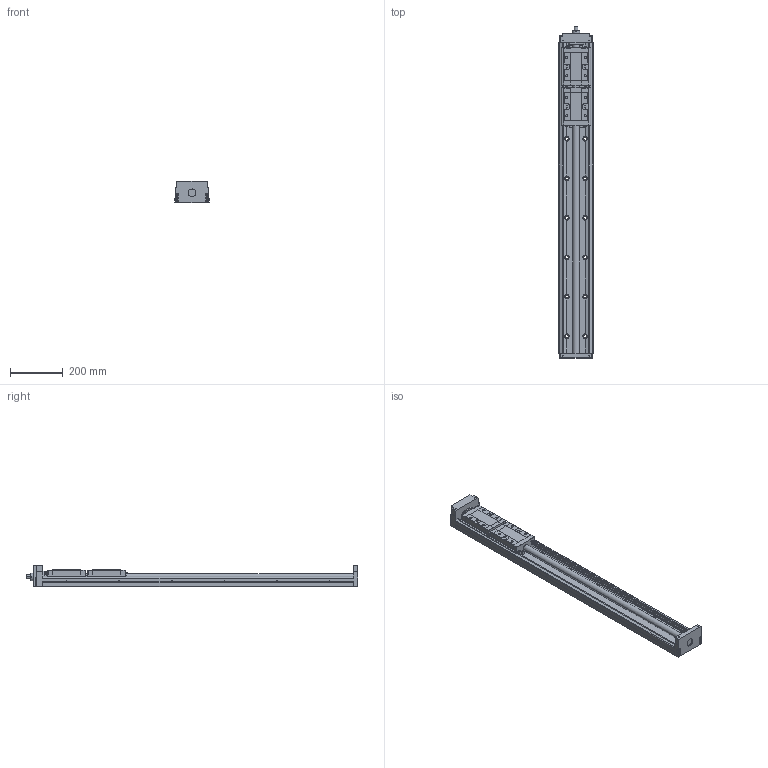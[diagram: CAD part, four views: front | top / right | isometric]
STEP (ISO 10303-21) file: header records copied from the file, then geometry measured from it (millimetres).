
FILE_DESCRIPTION(('no description'),'unknown implementation level');
FILE_NAME('KK13025P1180A2H0000_FILE_69.stp',' ',('HIWIN GmbH'),('CADClick - KiM GmbH - www.kimweb.de'),'unknown preprocess','ACIS','unknown authorization');
FILE_SCHEMA(('automotive_design'));
Length unit declared in the file: millimetre
Products named in the file (3): KK13025P1180A2H0000_FILE_1; KK130_FILE; KK13025P1180A2H0000_FILE
Bounding box: 130 x 1262 x 83 mm (x, y, z)
Volume: 5339319.3 mm3; surface area: 753314.3 mm2
Topology: 3 solids, 19 shells, 1035 faces, 2542 edges, 1638 vertices
Faces by surface type: plane 653, cylinder 330, torus 44, sphere 4, cone 4
Entity records: 59950 total; most frequent: DIRECTION 5458, CARTESIAN_POINT 5430, STYLED_ITEM 5214, PRESENTATION_STYLE_ASSIGNMENT 5214, COLOUR_RGB 5214, ORIENTED_EDGE 5076, EDGE_CURVE 2538, CURVE_STYLE 2538
